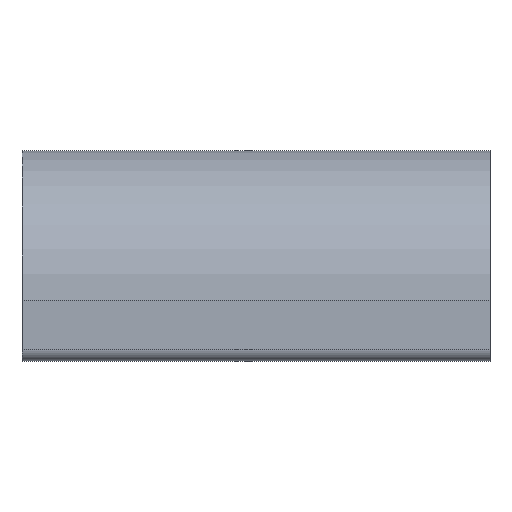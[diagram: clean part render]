
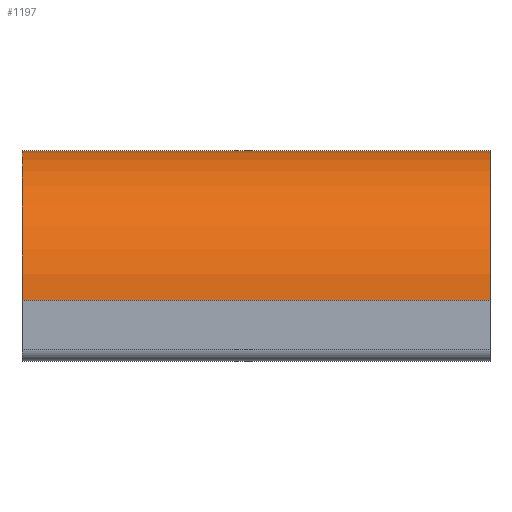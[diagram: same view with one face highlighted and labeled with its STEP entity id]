
A CAD part, top view. The second image highlights one B-rep face of the part: STEP entity #1197.
In plain terms, the highlighted cylindrical face has radius 32 mm (diameter 64 mm), a partial arc.
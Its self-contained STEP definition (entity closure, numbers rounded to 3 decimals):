
#84=FACE_OUTER_BOUND('',#145,.T.);
#145=EDGE_LOOP('',(#885,#886,#887,#888));
#241=LINE('',#1814,#382);
#243=LINE('',#1820,#384);
#382=VECTOR('',#1466,1000.);
#384=VECTOR('',#1472,1000.);
#484=CIRCLE('',#1289,32.);
#485=CIRCLE('',#1290,32.);
#550=VERTEX_POINT('',#1811);
#551=VERTEX_POINT('',#1813);
#552=VERTEX_POINT('',#1817);
#553=VERTEX_POINT('',#1819);
#687=EDGE_CURVE('',#551,#550,#241,.T.);
#689=EDGE_CURVE('',#550,#552,#484,.T.);
#690=EDGE_CURVE('',#553,#552,#243,.T.);
#691=EDGE_CURVE('',#551,#553,#485,.T.);
#885=ORIENTED_EDGE('',*,*,#689,.T.);
#886=ORIENTED_EDGE('',*,*,#690,.F.);
#887=ORIENTED_EDGE('',*,*,#691,.F.);
#888=ORIENTED_EDGE('',*,*,#687,.T.);
#1164=CYLINDRICAL_SURFACE('',#1288,32.);
#1197=ADVANCED_FACE('',(#84),#1164,.T.);
#1288=AXIS2_PLACEMENT_3D('',#1816,#1468,#1469);
#1289=AXIS2_PLACEMENT_3D('',#1818,#1470,#1471);
#1290=AXIS2_PLACEMENT_3D('',#1821,#1473,#1474);
#1466=DIRECTION('',(-1.,0.,0.));
#1468=DIRECTION('center_axis',(-1.,0.,0.));
#1469=DIRECTION('ref_axis',(0.,0.,1.));
#1470=DIRECTION('center_axis',(1.,0.,0.));
#1471=DIRECTION('ref_axis',(0.,0.,-1.));
#1472=DIRECTION('',(-1.,0.,0.));
#1473=DIRECTION('center_axis',(1.,0.,0.));
#1474=DIRECTION('ref_axis',(0.,0.,-1.));
#1811=CARTESIAN_POINT('',(0.,22.5,-9.5));
#1813=CARTESIAN_POINT('',(100.,22.5,-9.5));
#1814=CARTESIAN_POINT('',(100.,22.5,-9.5));
#1816=CARTESIAN_POINT('Origin',(100.,-9.5,-9.5));
#1817=CARTESIAN_POINT('',(0.,-9.5,22.5));
#1818=CARTESIAN_POINT('Origin',(0.,-9.5,-9.5));
#1819=CARTESIAN_POINT('',(100.,-9.5,22.5));
#1820=CARTESIAN_POINT('',(100.,-9.5,22.5));
#1821=CARTESIAN_POINT('Origin',(100.,-9.5,-9.5));
